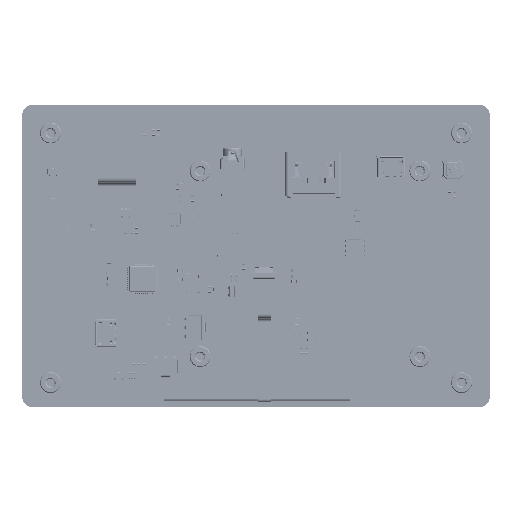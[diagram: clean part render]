
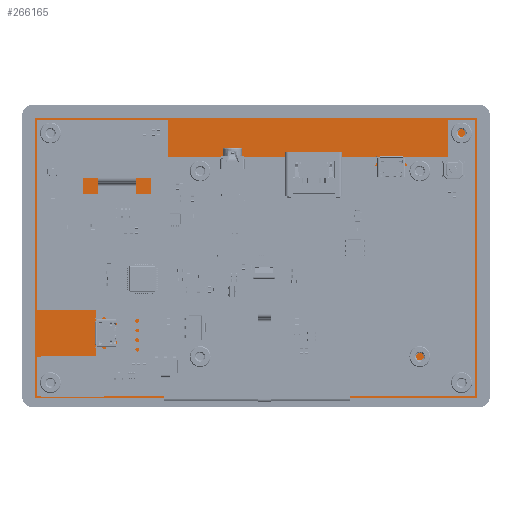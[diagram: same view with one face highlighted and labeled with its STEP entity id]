
A CAD part, top view. The second image highlights one B-rep face of the part: STEP entity #266165.
In plain terms, the highlighted planar face has unit normal (0, 0, 1) as drawn and (0, 0, -1) by its records, which use the part's own axes.
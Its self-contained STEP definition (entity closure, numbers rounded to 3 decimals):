
#263614=DIRECTION('',(0.,-1.,0.));
#263615=VECTOR('',#263614,73.92);
#263616=CARTESIAN_POINT('',(-58.27,39.56,-2.15));
#263617=LINE('',#263616,#263615);
#263621=DIRECTION('',(1.,0.,0.));
#263622=VECTOR('',#263621,116.54);
#263623=CARTESIAN_POINT('',(-58.27,-34.36,-2.15));
#263624=LINE('',#263623,#263622);
#263628=DIRECTION('',(0.,1.,0.));
#263629=VECTOR('',#263628,73.92);
#263630=CARTESIAN_POINT('',(58.27,-34.36,-2.15));
#263631=LINE('',#263630,#263629);
#263635=DIRECTION('',(-1.,0.,0.));
#263636=VECTOR('',#263635,116.54);
#263637=CARTESIAN_POINT('',(58.27,39.56,-2.15));
#263638=LINE('',#263637,#263636);
#265316=CARTESIAN_POINT('',(-58.27,39.56,-2.15));
#265317=CARTESIAN_POINT('',(-58.27,-34.36,-2.15));
#265318=VERTEX_POINT('',#265316);
#265319=VERTEX_POINT('',#265317);
#265320=CARTESIAN_POINT('',(58.27,-34.36,-2.15));
#265321=VERTEX_POINT('',#265320);
#265322=CARTESIAN_POINT('',(58.27,39.56,-2.15));
#265323=VERTEX_POINT('',#265322);
#266154=CARTESIAN_POINT('',(0.,0.,-2.15));
#266155=DIRECTION('',(0.,0.,1.));
#266156=DIRECTION('',(1.,0.,0.));
#266157=AXIS2_PLACEMENT_3D('',#266154,#266155,#266156);
#266158=PLANE('',#266157);
#266159=ORIENTED_EDGE('',*,*,#266086,.T.);
#266160=ORIENTED_EDGE('',*,*,#266101,.T.);
#266161=ORIENTED_EDGE('',*,*,#266115,.T.);
#266162=ORIENTED_EDGE('',*,*,#266128,.T.);
#266163=EDGE_LOOP('',(#266159,#266160,#266161,#266162));
#266164=FACE_OUTER_BOUND('',#266163,.F.);
#266165=ADVANCED_FACE('',(#266164),#266158,.F.);
#266086=EDGE_CURVE('',#265318,#265319,#263617,.T.);
#266101=EDGE_CURVE('',#265319,#265321,#263624,.T.);
#266115=EDGE_CURVE('',#265321,#265323,#263631,.T.);
#266128=EDGE_CURVE('',#265323,#265318,#263638,.T.);
